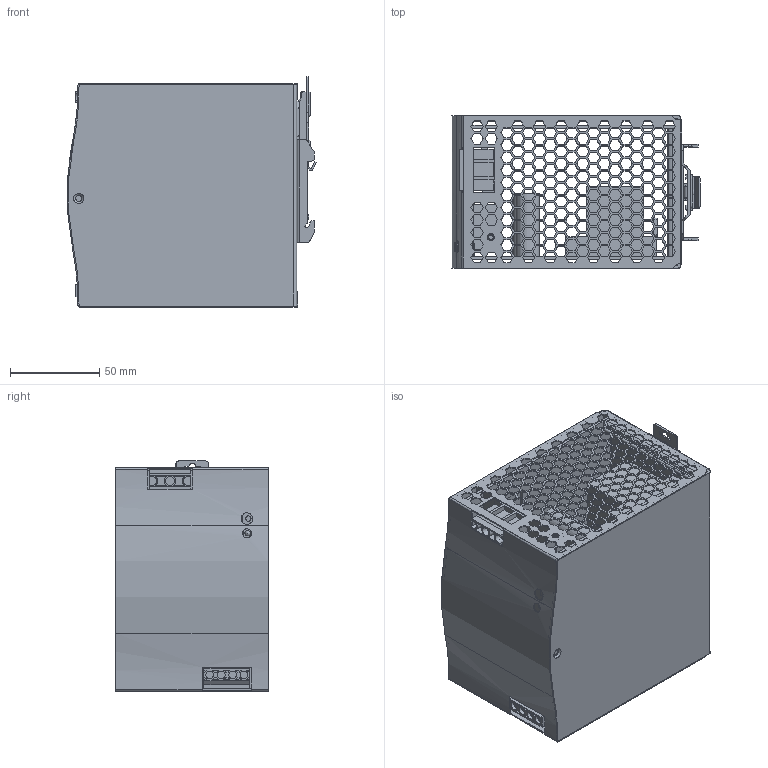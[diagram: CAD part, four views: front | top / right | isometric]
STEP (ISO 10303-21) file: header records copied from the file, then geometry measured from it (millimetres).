
FILE_DESCRIPTION((''),'2;1');
FILE_NAME('C:\Users\shirley\Desktop\NDR-480-3D.stp','2020-08-14T16:29:14',('shirley'),(''),'Autodesk Inventor 2010','Autodesk Inventor 2010','');
FILE_SCHEMA(('AUTOMOTIVE_DESIGN { 1 0 10303 214 1 1 1 1 }'));
Length unit declared in the file: millimetre
Products named in the file (24): NDR-480-3D; DDD; ÊUˆO; HS2; PCB1; a2; VR; LED; p3; ˋTˋwÊª1; ˋ°Ûy; ËÔˆO; ¤ïÊl2; ¤ïÊl; pcb2; ÊWˆO; pcb3; PCB1_1; HS2_1; 零件66; 掛座DRP14; P1; P3
Assembly tree (25 placements, depth 5):
  NDR-480-3D
    DDD
    ÊUˆO
      HS2
      PCB1
        a2
          VR  x2
          LED
        PCB1
    p3  x2
    ˋTˋwÊª1
    ˋ°Ûy
    ËÔˆO
      ¤ïÊl2
      ¤ïÊl
      pcb2
    ÊWˆO
      pcb3
        PCB1_1
      HS2_1
    零件66
    掛座DRP14
      P1
      P3
Bounding box: 139.17 x 85.5 x 128.91 mm (x, y, z)
Volume: 262422.3 mm3; surface area: 260475.3 mm2
Topology: 18 solids, 18 shells, 3147 faces, 9202 edges, 6117 vertices
Faces by surface type: plane 2810, cylinder 281, cone 51, torus 4, bspline 1
Full cylindrical faces by diameter (mm): 2.3 x4, 2.6 x10, 2.65 x2, 3 x3, 3.4 x16, 3.5 x10, 3.61 x2, 4 x7, 4.2 x1, 4.3 x4, 5 x1, 5.1 x1, 6.5 x1, 13.5 x5
Entity records: 106974 total; most frequent: CARTESIAN_POINT 21458, ORIENTED_EDGE 18028, DIRECTION 15961, EDGE_CURVE 9014, VECTOR 8365, LINE 8365, VERTEX_POINT 6053, EDGE_LOOP 4133
